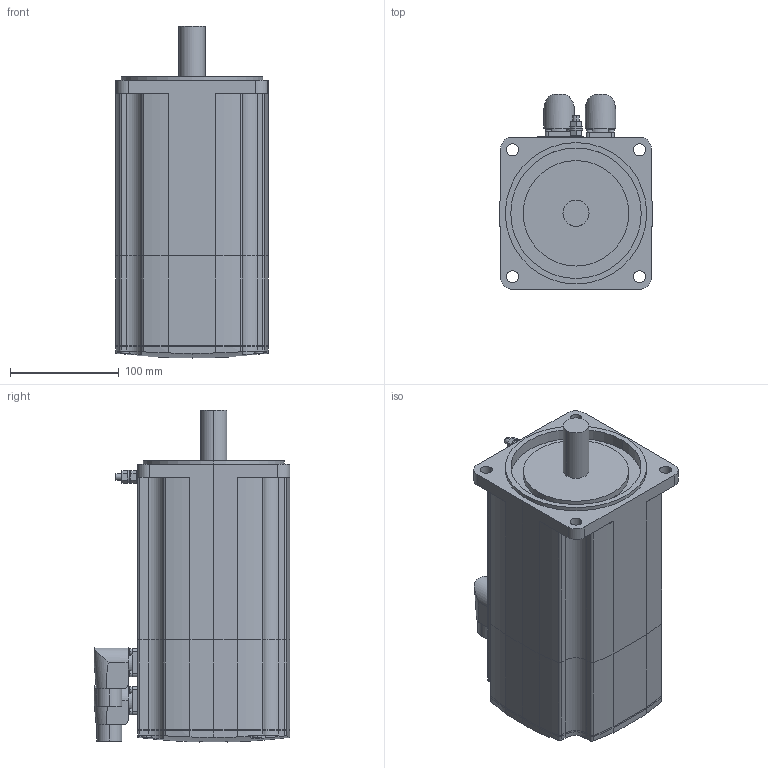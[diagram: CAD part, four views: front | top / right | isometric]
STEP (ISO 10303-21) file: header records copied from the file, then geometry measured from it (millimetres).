
FILE_DESCRIPTION (( 'STEP AP214' ), '1' );
FILE_NAME ('SH31401x0xF2100.STEP', '2013-11-29T10:07:49', ( 'Windows User' ), ( 'Schneider-Electric' ), 'SwSTEP 2.0', 'SolidWorks 2010', '' );
FILE_SCHEMA (( 'AUTOMOTIVE_DESIGN' ));
Length unit declared in the file: millimetre
Products named in the file (8): 1-100005039_DECKEL SH3-140X-X_VM0_Deckel; 1-100010983_K-FLACHDICHTUNG BMH-MH3-140X_000; 1-100009373_LAGERSCHILD SH3-140X-F_VM0_Lagerschild SH3-140x-F-M23 und M40; 1-100009130_TOPFGEHÄUSE SH3-140X-X_VM0_Topfgehäuse SH3-1401-F mit Welle ohne Passfeder; 1-100009587_K-ERDUNGSBOLZEN M6_VM1; K-POWER-CONINVERS-ABGEWIN_POWER-CONINVERS-ABGEWINKELT_000_mit Bremse; K-ENCODER-CONINVERS-ABGEW_ENCODER-CONINVERS-ABGEWINKELT_000_Single- MultiTurn; SH31401x0xF2100
Assembly tree (7 placements, depth 2):
  SH31401x0xF2100
    1-100009130_TOPFGEHÄUSE SH3-140X-X_VM0_Topfgehäuse SH3-1401-F mit Welle ohne Passfeder
    1-100009373_LAGERSCHILD SH3-140X-F_VM0_Lagerschild SH3-140x-F-M23 und M40
    1-100010983_K-FLACHDICHTUNG BMH-MH3-140X_000
    K-ENCODER-CONINVERS-ABGEW_ENCODER-CONINVERS-ABGEWINKELT_000_Single- MultiTurn
    K-POWER-CONINVERS-ABGEWIN_POWER-CONINVERS-ABGEWINKELT_000_mit Bremse
    1-100005039_DECKEL SH3-140X-X_VM0_Deckel
    1-100009587_K-ERDUNGSBOLZEN M6_VM1
Bounding box: 140 x 179.9 x 305.35 mm (x, y, z)
Volume: 4448785.2 mm3; surface area: 301141 mm2
Topology: 7 solids, 7 shells, 444 faces, 1097 edges, 722 vertices
Faces by surface type: cylinder 235, plane 185, torus 16, sphere 4, bspline 4
Entity records: 14796 total; most frequent: CARTESIAN_POINT 3529, DIRECTION 2452, ORIENTED_EDGE 2194, EDGE_CURVE 1097, AXIS2_PLACEMENT_3D 955, VERTEX_POINT 722, LINE 542, VECTOR 542
